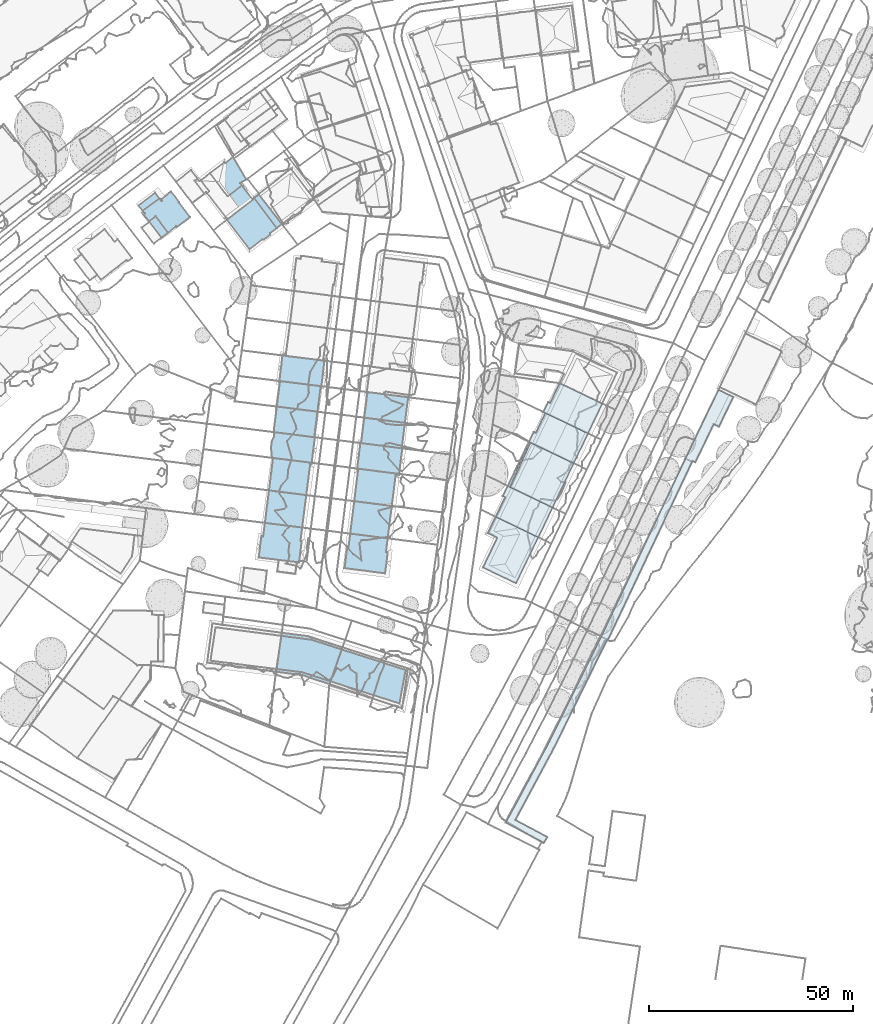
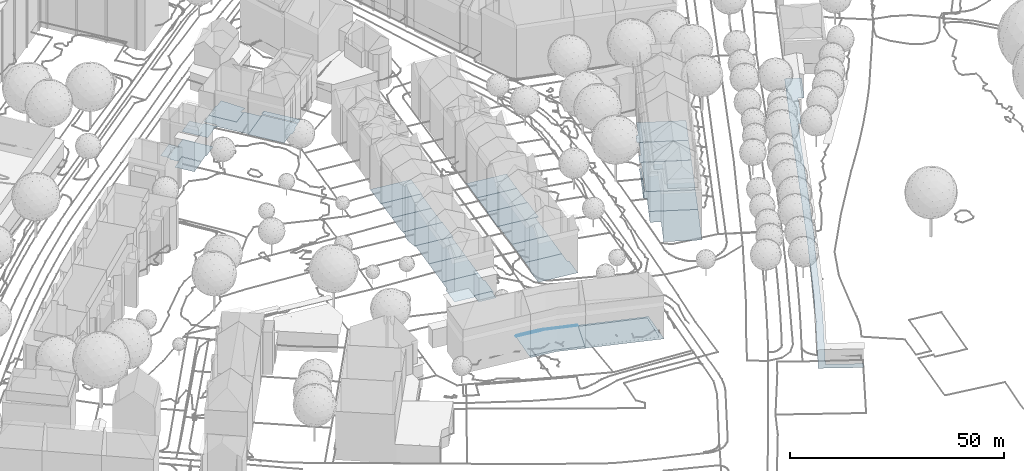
# Not in any storey, part 9 of 477: 26 footings.
"""IFC4 building model written with IfcOpenShell, lengths in metres."""

from ifc_helpers import new_model, si_unit, frame, origin_with_axes, place, context, subcontext, project, spatial, polygons, element, save


model = new_model("IFC4")

# Units and contexts
model_context = context("Model", 3, precision=1e-05, world=origin_with_axes())
body_context = subcontext(model_context, "Body", "Model", "MODEL_VIEW")
ifc_project = project(units=[si_unit("AREAUNIT", "SQUARE_METRE"), si_unit("LENGTHUNIT", "METRE")], contexts=[model_context])

# Sites, building
site_1_placement = place(None, origin_with_axes())
site_1 = spatial("IfcSite", under=ifc_project, at=site_1_placement, Name="Topoexport Site")
site_2_placement = place(site_1_placement, origin_with_axes())
site_2 = spatial("IfcSite", under=site_1, at=site_2_placement, Name="TPX_BUILDINGS")
building_1_placement = place(site_2_placement, frame((495.5237320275, 54.2186160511, 497.0566), z_axis=(0.0, 0.0, 1.0), x_axis=(1.0, 0.0, 0.0)))
building_1 = spatial("IfcBuilding", under=site_2, at=building_1_placement, Name="Building 9", CompositionType="ELEMENT")

# Footings
footing_1_placement = place(None, frame((495.5237320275, 54.2186160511, 497.0566), z_axis=(0.0, 0.0, 1.0), x_axis=(1.0, 0.0, 0.0)))
element("IfcFooting", 1, at=footing_1_placement, inside=building_1, Name="Floor 0", context=body_context, shape_type="Tessellation", body=[
    polygons([(0.5759999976, -0.2784000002, 0.508), (0.5370000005, -0.2588, 0.473), (2.2589999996, 3.4111000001, 0.44), (2.3440000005, 4.8662, 0.0001), (0.0, 0.0, 0.0), (5.2080000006, 10.8144000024, 0.0001), (5.5590000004, 10.6464000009, 0.309)], [[[1, 2, 3]], [[4, 2, 5]], [[3, 6, 7]], [[4, 6, 2]], [[6, 3, 2]]]),
])
footing_2_placement = place(None, frame((495.5237320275, 54.2186160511, 497.0566), z_axis=(0.0, 0.0, 1.0), x_axis=(1.0, 0.0, 0.0)))
element("IfcFooting", 2, at=footing_2_placement, inside=building_1, Name="Floor 1", context=body_context, shape_type="Tessellation", body=[
    polygons([(6.6919999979, 10.1025000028, 1.9099), (10.9839999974, 8.0459000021, 1.9099), (2.868999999, 4.6152000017, 1.9099), (15.4690000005, 5.8974000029, 1.9099), (10.2449999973, -4.9483000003, 1.9098), (5.748999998, -2.7763999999, 1.9099), (6.0159999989, 10.4266999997, 1.9099), (5.5590000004, 10.6464000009, 1.9099), (2.8189999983, 4.638600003, 1.9099), (16.1620000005, 5.5644000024, 1.9099), (2.2569999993, 3.3349000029, 1.9099), (1.5599999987, 1.8789000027, 1.9099), (0.5759999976, -0.2784000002, 1.9099), (10.9659999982, -5.2958999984, 1.9098)], [[[1, 2, 3]], [[2, 4, 5]], [[3, 2, 6]], [[7, 3, 8]], [[9, 8, 3]], [[1, 3, 7]], [[10, 5, 4]], [[6, 2, 5]], [[11, 3, 6]], [[6, 12, 11]], [[13, 12, 6]], [[10, 14, 5]]]),
])

# Building
building_2_placement = place(site_2_placement, frame((504.2517320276, 72.3416160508, 498.9665), z_axis=(0.0, 0.0, 1.0), x_axis=(1.0, 0.0, 0.0)))
building_2 = spatial("IfcBuilding", under=site_2, at=building_2_placement, Name="Building 14", CompositionType="ELEMENT")

# Footing
footing_3_placement = place(None, frame((504.2517320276, 72.3416160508, 498.9665), z_axis=(0.0, 0.0, 1.0), x_axis=(1.0, 0.0, 0.0)))
element("IfcFooting", 3, at=footing_3_placement, inside=building_2, Name="Floor 0", context=body_context, shape_type="Tessellation", body=[
    polygons([(10.9389999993, -5.2372999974, 0.0), (5.7769999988, -2.7655999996, 0.0), (12.0669999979, -2.878899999, 0.0), (2.2540000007, 3.447300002, 0.0), (13.3420000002, -0.2138999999, 0.0), (9.2909999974, 4.5293000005, 0.0), (14.4289999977, 2.0596000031, 0.0), (3.3110000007, 5.6563000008, 0.0), (5.0020000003, 6.5898000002, 0.0), (4.3259999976, 6.9150000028, 0.0), (1.4849999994, -0.7108999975, 0.0), (1.6769999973, 2.2412, 0.0), (0.8079999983, -0.3866999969, 0.0), (0.0, 0.0, 0.0), (1.1909999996, 2.4736000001, 0.0), (4.0260000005, 7.0596000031, 0.0), (3.9849999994, 7.0654000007, 0.0)], [[[1, 2, 3]], [[3, 4, 5]], [[3, 2, 4]], [[5, 6, 7]], [[4, 6, 5]], [[8, 9, 6]], [[8, 10, 9]], [[2, 11, 12]], [[4, 2, 12]], [[13, 14, 12]], [[15, 12, 14]], [[6, 4, 8]], [[16, 10, 17]], [[10, 8, 17]], [[12, 11, 13]]]),
])

# Building
building_3_placement = place(site_2_placement, frame((489.4687320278, 34.2352160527, 498.9664), z_axis=(0.0, 0.0, 1.0), x_axis=(1.0, 0.0, 0.0)))
building_3 = spatial("IfcBuilding", under=site_2, at=building_3_placement, Name="Building 15", CompositionType="ELEMENT")

# Footing
footing_4_placement = place(None, frame((489.4687320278, 34.2352160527, 498.9664), z_axis=(0.0, 0.0, 1.0), x_axis=(1.0, 0.0, 0.0)))
element("IfcFooting", 4, at=footing_4_placement, inside=building_3, Name="Floor 0", context=body_context, shape_type="Tessellation", body=[
    polygons([(8.311999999, 9.9100999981, 0.0), (12.7919999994, 7.7509000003, 0.0), (3.5139999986, 7.2840999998, 0.0), (3.3530000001, 12.3016999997, 0.0001), (13.5309999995, 7.3944999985, 0.0), (8.0909999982, -3.8643000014, 0.0), (0.0, 0.0, 0.0), (1.1679999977, 8.4237999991, 0.0001), (3.1030000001, 12.4228000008, 0.0001), (3.2719999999, 12.3407999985, 0.0001)], [[[1, 2, 3]], [[4, 1, 3]], [[5, 6, 2]], [[6, 7, 3]], [[8, 9, 10]], [[4, 8, 10]], [[8, 4, 3]], [[2, 6, 3]]]),
])

# Building
building_4_placement = place(site_2_placement, frame((500.7317320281, 65.0330160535, 498.9665), z_axis=(0.0, 0.0, 1.0), x_axis=(1.0, 0.0, 0.0)))
building_4 = spatial("IfcBuilding", under=site_2, at=building_4_placement, Name="Building 16", CompositionType="ELEMENT")

# Footing
footing_5_placement = place(None, frame((500.7317320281, 65.0330160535, 498.9665), z_axis=(0.0, 0.0, 1.0), x_axis=(1.0, 0.0, 0.0)))
element("IfcFooting", 5, at=footing_5_placement, inside=building_4, Name="Floor 0", context=body_context, shape_type="Tessellation", body=[
    polygons([(10.2609999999, -4.9180000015, 0.0), (13.7829999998, 2.3944999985, 0.0), (10.9539999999, -5.25, 0.0), (9.2969999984, 4.5429999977, 0.0), (5.7969999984, -2.7783000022, 0.0), (1.6799999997, 2.1992000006, 0.0), (14.4579999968, 2.0713, 0.0), (3.2749999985, 5.5321999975, 0.0), (4.5700000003, 6.8057000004, 0.0), (0.8079999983, -0.3877000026, 0.0), (0.0, 0.0, 0.0), (1.175999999, 2.441399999, 0.0), (4.0119999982, 7.0722999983, 0.0)], [[[1, 2, 3]], [[4, 5, 6]], [[5, 4, 1]], [[3, 2, 7]], [[1, 4, 2]], [[8, 9, 4]], [[10, 11, 6]], [[12, 6, 11]], [[6, 8, 4]], [[13, 9, 8]], [[10, 6, 5]]]),
])

# Building
building_5_placement = place(site_2_placement, frame((492.5717320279, 46.6580160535, 498.9665), z_axis=(0.0, 0.0, 1.0), x_axis=(1.0, 0.0, 0.0)))
building_5 = spatial("IfcBuilding", under=site_2, at=building_5_placement, Name="Building 17", CompositionType="ELEMENT")

# Footing
footing_6_placement = place(None, frame((492.5717320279, 46.6580160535, 498.9665), z_axis=(0.0, 0.0, 1.0), x_axis=(1.0, 0.0, 0.0)))
element("IfcFooting", 6, at=footing_6_placement, inside=building_5, Name="Floor 0", context=body_context, shape_type="Tessellation", body=[
    polygons([(8.7190000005, 4.7753999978, 0.0), (5.2339999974, -2.5243999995, -0.0001), (2.3319999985, 4.811499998, 0.0), (9.6889999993, -4.6719000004, -0.0001), (13.1979999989, 2.6122999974, -0.0001), (13.9179999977, 2.2646999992, -0.0001), (10.4279999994, -5.0283000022, -0.0001), (3.9690000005, 7.0692999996, 0.0), (0.2469999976, -0.1191000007, 0.0), (0.9690000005, 1.998999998, 0.0), (0.1689999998, -0.0820000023, 0.0), (0.0, 0.0, 0.0), (2.9519999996, 7.5605999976, 0.0), (1.7639999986, 5.0946999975, 0.0)], [[[1, 2, 3]], [[4, 5, 6]], [[6, 7, 4]], [[5, 4, 2]], [[1, 5, 2]], [[3, 8, 1]], [[9, 10, 2]], [[3, 2, 10]], [[11, 12, 10]], [[8, 3, 13]], [[13, 3, 14]], [[10, 9, 11]]]),
])

# Building
building_6_placement = place(site_2_placement, frame((211.8297320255, 101.9383160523, 526.7541), z_axis=(0.0, 0.0, 1.0), x_axis=(1.0, 0.0, 0.0)))
building_6 = spatial("IfcBuilding", under=site_2, at=building_6_placement, Name="Building 18", CompositionType="ELEMENT")

# Footing
footing_7_placement = place(None, frame((211.8297320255, 101.9383160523, 526.7541), z_axis=(0.0, 0.0, 1.0), x_axis=(1.0, 0.0, 0.0)))
element("IfcFooting", 7, at=footing_7_placement, inside=building_6, Name="Floor 3", context=body_context, shape_type="Tessellation", body=[
    polygons([(335.3610000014, -24.1719000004, -27.9426), (338.9510000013, -25.9023999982, -27.9427), (334.2990000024, -32.5879000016, -27.9427), (335.4580000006, -33.1464999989, -27.9427), (334.1680000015, -32.5234999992, -27.9427), (328.9720000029, -41.5625, -27.9427), (333.6909999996, -33.5137000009, -27.9427), (332.5610000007, -35.8555000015, -27.9427), (327.2400000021, -41.0078000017, -27.9427), (329.6530000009, -41.8887000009, -27.9427), (308.313000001, -85.2412, -27.9427), (308.1209999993, -85.2069999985, -27.9427), (306.6070000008, -84.692400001, -27.9427), (324.995000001, -45.7617000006, -27.9427), (328.8660000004, -41.7870999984, -27.9427), (294.876000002, -112.1572000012, -27.9427), (294.9710000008, -108.2001999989, -27.9427), (294.4140000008, -113.0175999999, -27.9427), (292.4979999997, -135.1669999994, -27.9427), (285.512000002, -129.5995999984, -27.9427), (293.3480000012, -133.7763999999, -27.9427), (283.2259999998, -130.1728999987, -27.9427), (306.6060000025, -84.6942999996, -27.9427), (289.6669999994, -118.191399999, -27.9427), (286.1980000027, -128.3213, -27.9427), (289.1790000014, -119.0839999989, -27.9427), (293.3880000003, -111.3975000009, -27.9427), (285.9140000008, -128.8506000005, -27.9427), (287.0720000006, -123.0791000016, -27.9427), (286.7400000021, -123.691399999, -27.9427)], [[[1, 2, 3]], [[4, 3, 2]], [[3, 5, 1]], [[6, 5, 7]], [[6, 7, 8]], [[6, 9, 1]], [[5, 6, 1]], [[6, 8, 10]], [[11, 12, 13]], [[11, 13, 14]], [[15, 14, 6]], [[9, 6, 14]], [[11, 14, 15]], [[16, 17, 12]], [[17, 16, 18]], [[19, 20, 21]], [[22, 20, 19]], [[12, 23, 13]], [[12, 17, 23]], [[24, 25, 26]], [[27, 25, 24]], [[27, 17, 18]], [[28, 29, 25]], [[20, 29, 28]], [[20, 30, 29]], [[22, 30, 20]], [[29, 26, 25]], [[27, 18, 25]]]),
])

# Building
building_7_placement = place(site_2_placement, frame((405.0787320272, 122.9930160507, 499.2066), z_axis=(0.0, 0.0, 1.0), x_axis=(1.0, 0.0, 0.0)))
building_7 = spatial("IfcBuilding", under=site_2, at=building_7_placement, Name="Building 33", CompositionType="ELEMENT")

# Footing
footing_8_placement = place(None, frame((405.0787320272, 122.9930160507, 499.2066), z_axis=(0.0, 0.0, 1.0), x_axis=(1.0, 0.0, 0.0)))
element("IfcFooting", 8, at=footing_8_placement, inside=building_7, Name="Floor 0", context=body_context, shape_type="Tessellation", body=[
    polygons([(0.9959999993, -1.2978999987, -0.126), (5.0779999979, 1.7256000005, -0.126), (1.4620000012, -1.9042999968, -0.126), (5.563000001, 1.0937000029, -0.126), (1.5280000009, -1.9912, -0.126), (4.1849999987, -2.6318999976, -0.126), (2.5229999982, -3.8632999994, -0.126), (1.2509999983, -2.2060999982, -0.126), (7.1750000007, -6.6679999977, -0.126), (9.1609999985, -5.1269999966, -0.126), (9.3090000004, -5.3173999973, -0.126), (12.5799999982, -2.8007999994, -0.126), (9.8220000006, 0.754900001, -0.126), (5.6979999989, 1.1972000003, -0.126), (5.4679999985, 1.4980000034, -0.126), (7.9809999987, 3.4267000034, -0.126), (9.9129999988, 0.8252000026, -0.126), (5.0779999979, 1.7256000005, 0.0), (0.0, 0.0, 0.0), (4.0289999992, 3.0927000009, 0.0), (0.9959999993, -1.2978999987, 0.0), (4.1849999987, -2.6318999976, -0.206), (2.625, -3.9960999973, -0.206), (2.5229999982, -3.8632999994, -0.206), (7.1750000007, -6.6679999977, -0.206), (3.7120000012, -9.3544999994, -0.206), (0.7219999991, -5.4570999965, -0.206)], [[[1, 2, 3]], [[4, 5, 3]], [[3, 2, 4]], [[4, 6, 5]], [[7, 8, 5]], [[5, 6, 7]], [[9, 6, 10]], [[11, 10, 12]], [[6, 13, 10]], [[6, 4, 14]], [[15, 16, 14]], [[16, 13, 14]], [[16, 17, 13]], [[12, 10, 13]], [[13, 6, 14]], [[18, 19, 20]], [[19, 18, 21]], [[22, 23, 24]], [[22, 25, 23]], [[26, 27, 23]], [[23, 25, 26]]]),
])

# Building
building_8_placement = place(site_2_placement, frame((434.497732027, 36.682416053, 499.5704), z_axis=(0.0, 0.0, 1.0), x_axis=(1.0, 0.0, 0.0)))
building_8 = spatial("IfcBuilding", under=site_2, at=building_8_placement, Name="Building 42", CompositionType="ELEMENT")

# Footing
footing_9_placement = place(None, frame((434.497732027, 36.682416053, 499.5704), z_axis=(0.0, 0.0, 1.0), x_axis=(1.0, 0.0, 0.0)))
element("IfcFooting", 9, at=footing_9_placement, inside=building_8, Name="Floor 0", context=body_context, shape_type="Tessellation", body=[
    polygons([(5.4829999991, 7.9668000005, 0.0001), (1.1019999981, 5.1532999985, 0.0001), (1.5179999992, 8.4609999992, 0.0001), (0.3359999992, 2.6660000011, 0.0), (4.7949999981, -0.5956999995, 0.0), (0.0, 0.0, 0.0), (0.6559999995, 5.2089999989, 0.0001), (10.2329999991, 4.0313000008, 0.0), (10.2470000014, 4.1396999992, 0.0), (10.5500000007, 3.9912, 0.0), (10.2080000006, 1.2989000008, 0.0), (9.8889999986, -1.2109000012, 0.0), (10.6510000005, 7.3222999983, 0.0), (9.3139999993, -1.1552000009, 0.454), (4.5639999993, -3.4218000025, 0.454), (4.9129999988, -0.6093000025, 0.454), (9.5789999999, -1.1737999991, 0.454), (8.9620000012, -3.9814000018, 0.454), (9.5769999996, -1.1884000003, 0.454)], [[[1, 2, 3]], [[4, 5, 6]], [[2, 5, 4]], [[4, 7, 2]], [[1, 8, 2]], [[1, 9, 8]], [[5, 2, 8]], [[10, 11, 8]], [[12, 5, 11]], [[8, 11, 5]], [[1, 13, 9]], [[14, 15, 16]], [[16, 17, 14]], [[14, 18, 15]], [[14, 17, 19]]]),
])

# Building
building_9_placement = place(site_2_placement, frame((437.0167320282, 53.1053160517, 499.5705), z_axis=(0.0, 0.0, 1.0), x_axis=(1.0, 0.0, 0.0)))
building_9 = spatial("IfcBuilding", under=site_2, at=building_9_placement, Name="Building 43", CompositionType="ELEMENT")

# Footing
footing_10_placement = place(None, frame((437.0167320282, 53.1053160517, 499.5705), z_axis=(0.0, 0.0, 1.0), x_axis=(1.0, 0.0, 0.0)))
element("IfcFooting", 10, at=footing_10_placement, inside=building_9, Name="Floor 0", context=body_context, shape_type="Tessellation", body=[
    polygons([(0.0, 0.0, 0.0), (0.2280000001, 1.8125, 0.0), (1.7649999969, -0.2216999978, 0.0), (0.5899999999, 4.6933000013, 0.0), (4.0639999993, -0.5097999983, 0.0), (5.1639999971, 7.4354999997, 0.0), (9.6719999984, 3.0175999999, 0.0), (9.1429999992, -1.1475000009, 0.0), (9.1739999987, 6.9345000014, 0.0), (10.1229999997, 6.5644000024, 0.0), (0.743999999, 7.9882999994, 0.0), (1.8079999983, 7.8553999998, 0.0), (0.9769999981, 7.7666000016, 0.0), (0.7619999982, 7.7928999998, 0.0), (4.6549999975, 7.4990000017, 0.0), (10.4389999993, 6.5243999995, 0.0), (10.4709999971, 6.7723999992, 0.0)], [[[1, 2, 3]], [[2, 4, 5]], [[5, 3, 2]], [[6, 7, 4]], [[7, 8, 5]], [[7, 5, 4]], [[9, 10, 7]], [[11, 12, 13]], [[13, 14, 11]], [[15, 4, 12]], [[16, 10, 17]], [[15, 6, 4]], [[9, 7, 6]], [[17, 10, 9]], [[4, 13, 12]]]),
])

# Building
building_10_placement = place(site_2_placement, frame((439.5667320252, 79.9246160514, 499.5705), z_axis=(0.0, 0.0, 1.0), x_axis=(1.0, 0.0, 0.0)))
building_10 = spatial("IfcBuilding", under=site_2, at=building_10_placement, Name="Building 44", CompositionType="ELEMENT")

# Footing
footing_11_placement = place(None, frame((439.5667320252, 79.9246160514, 499.5705), z_axis=(0.0, 0.0, 1.0), x_axis=(1.0, 0.0, 0.0)))
element("IfcFooting", 11, at=footing_11_placement, inside=building_10, Name="Floor 0", context=body_context, shape_type="Tessellation", body=[
    polygons([(10.3030000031, -1.2811999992, 0.0), (10.2280000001, -1.2714999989, 0.0), (10.6560000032, 1.7294999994, 0.0), (10.7440000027, 2.4794999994, 0.0), (0.375, 3.0947000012, 0.0), (9.5560000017, -1.1875, 0.0), (0.4790000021, 3.9570000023, 0.0), (6.074000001, 5.6016000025, 0.0), (11.0370000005, 4.9805000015, 0.0), (9.949000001, 5.1162, 0.0), (5.2080000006, -0.6464999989, 0.0), (0.5350000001, -0.0654000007, 0.0), (0.0, 0.0, 0.0), (0.7589999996, 6.2675999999, 0.0), (2.3210000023, 6.0713, 0.0)], [[[1, 2, 3]], [[4, 3, 5]], [[3, 2, 6]], [[4, 7, 8]], [[9, 4, 10]], [[10, 4, 8]], [[6, 11, 3]], [[12, 5, 11]], [[13, 5, 12]], [[5, 7, 4]], [[14, 15, 7]], [[15, 8, 7]], [[5, 3, 11]]]),
])

# Building
building_11_placement = place(site_2_placement, frame((438.9377320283, 73.6600160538, 499.5705), z_axis=(0.0, 0.0, 1.0), x_axis=(1.0, 0.0, 0.0)))
building_11 = spatial("IfcBuilding", under=site_2, at=building_11_placement, Name="Building 47", CompositionType="ELEMENT")

# Footing
footing_12_placement = place(None, frame((438.9377320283, 73.6600160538, 499.5705), z_axis=(0.0, 0.0, 1.0), x_axis=(1.0, 0.0, 0.0)))
element("IfcFooting", 12, at=footing_12_placement, inside=building_11, Name="Floor 0", context=body_context, shape_type="Tessellation", body=[
    polygons([(10.932, 4.9833999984, 0.0), (10.9189999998, 4.8680999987, 0.0), (10.856999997, 4.9930999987, 0.0), (10.9019999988, 4.7245999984, 0.0), (10.7329999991, 4.7460999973, 0.0), (10.1849999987, 5.0770999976, 0.0), (0.7529999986, 5.9969999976, 0.0), (1.1549999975, 6.2001999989, 0.0), (5.8369999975, 5.6180999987, 0.0), (0.6289999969, 6.2645999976, 0.0), (0.6030000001, 6.0155999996, 0.0), (10.5179999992, 3.0585999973, 0.0), (0.4659999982, 3.7118999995, 0.0), (10.2869999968, 1.2509000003, 0.0), (9.9670000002, -1.255900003, 0.0), (9.3189999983, -1.1739000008, 0.0), (4.9719999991, -0.6270000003, 0.0), (0.186999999, 1.4891999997, 0.0), (0.2919999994, -0.0381000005, 0.0), (0.0, 0.0, 0.0)], [[[1, 2, 3]], [[4, 5, 2]], [[2, 6, 3]], [[2, 5, 6]], [[7, 8, 9]], [[6, 5, 9]], [[10, 8, 7]], [[10, 7, 11]], [[5, 12, 9]], [[13, 12, 14]], [[14, 15, 16]], [[17, 18, 14]], [[14, 16, 17]], [[18, 17, 19]], [[18, 13, 14]], [[19, 20, 18]], [[12, 13, 7]], [[9, 12, 7]]]),
])

# Building
building_12_placement = place(site_2_placement, frame((438.2527320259, 67.3914160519, 499.5705), z_axis=(0.0, 0.0, 1.0), x_axis=(1.0, 0.0, 0.0)))
building_12 = spatial("IfcBuilding", under=site_2, at=building_12_placement, Name="Building 48", CompositionType="ELEMENT")

# Footing
footing_13_placement = place(None, frame((438.2527320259, 67.3914160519, 499.5705), z_axis=(0.0, 0.0, 1.0), x_axis=(1.0, 0.0, 0.0)))
element("IfcFooting", 13, at=footing_13_placement, inside=building_12, Name="Floor 0", context=body_context, shape_type="Tessellation", body=[
    polygons([(10.6520000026, 5.0126999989, 0.0), (10.3590000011, 2.7109000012, 0.0), (10.0040000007, 5.0947000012, 0.0), (10.1220000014, 0.8544999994, 0.0), (5.6570000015, 5.6416000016, 0.0), (4.7919999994, -0.6024999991, 0.0), (0.4680000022, 4.5390999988, 0.0), (0.9770000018, 6.2305000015, 0.0), (0.6850000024, 6.2686000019, 0.0), (0.0410000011, 1.1455000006, 0.0), (10.0040000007, -1.2588, 0.0), (9.693, -1.2197000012, 0.0), (9.8859999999, -0.9921999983, 0.0), (10.0350000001, -1.0106999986, 0.0), (9.1400000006, -1.1493999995, 0.0), (0.0, 0.0, 0.0)], [[[1, 2, 3]], [[2, 4, 5]], [[5, 3, 2]], [[5, 6, 7]], [[8, 7, 9]], [[7, 8, 5]], [[6, 10, 7]], [[5, 4, 6]], [[11, 12, 13]], [[13, 14, 11]], [[13, 12, 15]], [[15, 6, 4]], [[16, 10, 6]], [[13, 15, 4]]]),
])

# Building
building_13_placement = place(site_2_placement, frame((437.5277320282, 63.6443160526, 499.5705), z_axis=(0.0, 0.0, 1.0), x_axis=(1.0, 0.0, 0.0)))
building_13 = spatial("IfcBuilding", under=site_2, at=building_13_placement, Name="Building 50", CompositionType="ELEMENT")

# Footing
footing_14_placement = place(None, frame((437.5277320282, 63.6443160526, 499.5705), z_axis=(0.0, 0.0, 1.0), x_axis=(1.0, 0.0, 0.0)))
element("IfcFooting", 14, at=footing_14_placement, inside=building_13, Name="Floor 0", context=body_context, shape_type="Tessellation", body=[
    polygons([(0.1939999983, 1.5361999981, 0.0), (0.6849999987, 2.6347999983, 0.0), (5.5169999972, 3.1446000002, 0.0), (0.1030000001, 0.8194000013, 0.0), (0.0, 0.0, 0.0), (4.6529999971, -3.1035000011, 0.0), (4.1439999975, -3.0399999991, 0.0), (0.2329999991, -2.5507000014, 0.0), (0.7249999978, 3.7470999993, 0.0), (9.8649999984, 2.5976999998, 0.0), (10.5479999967, 1.0157000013, 0.0), (10.7289999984, 2.4882999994, 0.0), (10.4179999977, 2.5273999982, 0.0), (10.1589999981, -2.1484000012, 0.0), (9.9599999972, -3.7666000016, 0.0)], [[[1, 2, 3]], [[3, 4, 1]], [[5, 6, 7]], [[8, 5, 7]], [[5, 4, 6]], [[9, 3, 2]], [[10, 11, 3]], [[12, 11, 13]], [[11, 10, 13]], [[6, 14, 15]], [[14, 6, 11]], [[3, 11, 6]], [[6, 4, 3]]]),
])

# Building
building_14_placement = place(site_2_placement, frame((436.0157320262, 45.1434160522, 499.5705), z_axis=(0.0, 0.0, 1.0), x_axis=(1.0, 0.0, 0.0)))
building_14 = spatial("IfcBuilding", under=site_2, at=building_14_placement, Name="Building 51", CompositionType="ELEMENT")

# Footing
footing_15_placement = place(None, frame((436.0157320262, 45.1434160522, 499.5705), z_axis=(0.0, 0.0, 1.0), x_axis=(1.0, 0.0, 0.0)))
element("IfcFooting", 15, at=footing_15_placement, inside=building_14, Name="Floor 0", context=body_context, shape_type="Tessellation", body=[
    polygons([(9.8909999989, 4.8260999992, 0.0), (5.0650000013, 7.4510999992, 0.0), (10.1440000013, 6.8143999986, 0.0), (9.5500000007, 2.1444999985, -0.0001), (0.3949999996, 3.1444999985, 0.0), (2.7659999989, 7.7402000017, 0.0), (0.7679999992, 6.1053999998, 0.0), (1.001000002, 7.9618999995, 0.0), (9.1330000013, -1.1387000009, -0.0001), (3.9649999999, -0.4941999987, 0.0), (0.0, 0.0, 0.0)], [[[1, 2, 3]], [[2, 4, 5]], [[6, 7, 8]], [[6, 2, 7]], [[5, 7, 2]], [[1, 4, 2]], [[9, 10, 4]], [[5, 10, 11]], [[5, 4, 10]]]),
])

# Building
building_15_placement = place(site_2_placement, frame((460.3767320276, 70.9432160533, 499.4055), z_axis=(0.0, 0.0, 1.0), x_axis=(1.0, 0.0, 0.0)))
building_15 = spatial("IfcBuilding", under=site_2, at=building_15_placement, Name="Building 52", CompositionType="ELEMENT")

# Footing
footing_16_placement = place(None, frame((460.3767320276, 70.9432160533, 499.4055), z_axis=(0.0, 0.0, 1.0), x_axis=(1.0, 0.0, 0.0)))
element("IfcFooting", 16, at=footing_16_placement, inside=building_15, Name="Floor 0", context=body_context, shape_type="Tessellation", body=[
    polygons([(5.6710000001, 5.6532999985, 0.0), (10.112999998, 5.0868999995, 0.0), (10.7339999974, 4.7557999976, 0.0), (10.9140000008, 4.9842999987, 0.0), (1.2829999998, 6.2137999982, 0.0), (0.7630000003, 6.0273000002, 0.0), (0.7709999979, 6.2782999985, 0.0), (0.6499999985, 6.0419999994, 0.0), (0.6359999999, 6.2967999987, 0.0), (0.6050000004, 6.0478000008, 0.0), (10.9010000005, 4.8817999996, 0.0), (10.8829999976, 4.7362999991, 0.0), (0.2740000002, 2.1669999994, 0.0), (9.9679999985, -1.2831999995, 0.0), (9.3729999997, -1.2061000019, 0.0), (10.2229999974, 0.7294999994, 0.0), (4.932, -0.6358000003, 0.0), (0.0, 0.0, 0.0)], [[[1, 2, 3]], [[4, 3, 2]], [[5, 1, 6]], [[5, 6, 7]], [[7, 8, 9]], [[10, 9, 8]], [[7, 6, 8]], [[3, 4, 11]], [[3, 11, 12]], [[13, 1, 3]], [[14, 15, 16]], [[16, 17, 3]], [[17, 16, 15]], [[13, 6, 1]], [[18, 13, 17]], [[17, 13, 3]]]),
])

# Building
building_16_placement = place(site_2_placement, frame((456.9307320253, 42.5213160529, 499.4054), z_axis=(0.0, 0.0, 1.0), x_axis=(1.0, 0.0, 0.0)))
building_16 = spatial("IfcBuilding", under=site_2, at=building_16_placement, Name="Building 53", CompositionType="ELEMENT")

# Footing
footing_17_placement = place(None, frame((456.9307320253, 42.5213160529, 499.4054), z_axis=(0.0, 0.0, 1.0), x_axis=(1.0, 0.0, 0.0)))
element("IfcFooting", 17, at=footing_17_placement, inside=building_16, Name="Floor 0", context=body_context, shape_type="Tessellation", body=[
    polygons([(0.3390000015, 2.7157999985, 0.0), (8.7890000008, -1.1162, 0.0), (0.0, 0.0, 0.0), (10.1860000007, 6.7793000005, 0.0), (9.1860000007, -1.1669999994, 0.0), (0.9930000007, 7.9501999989, 0.0001), (5.9710000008, 7.316399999, 0.0), (8.0789999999, 7.0487999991, 0.0)], [[[1, 2, 3]], [[2, 4, 5]], [[6, 7, 1]], [[4, 2, 8]], [[7, 8, 2]], [[1, 7, 2]]]),
])

# Building
building_17_placement = place(site_2_placement, frame((457.923732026, 50.4715160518, 499.4055), z_axis=(0.0, 0.0, 1.0), x_axis=(1.0, 0.0, 0.0)))
building_17 = spatial("IfcBuilding", under=site_2, at=building_17_placement, Name="Building 56", CompositionType="ELEMENT")

# Footing
footing_18_placement = place(None, frame((457.923732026, 50.4715160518, 499.4055), z_axis=(0.0, 0.0, 1.0), x_axis=(1.0, 0.0, 0.0)))
element("IfcFooting", 18, at=footing_18_placement, inside=building_17, Name="Floor 0", context=body_context, shape_type="Tessellation", body=[
    polygons([(7.0859999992, -0.9013999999, -0.0001), (9.3390000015, -0.0108000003, -0.0001), (9.2679999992, -0.5762000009, -0.0001), (9.193, -1.1699000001, -0.0001), (4.9780000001, -0.6338, -0.0001), (10.0240000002, 5.4248000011, 0.0), (5.9140000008, 7.3291000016, 0.0), (0.0, 0.0, 0.0), (0.9609999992, 7.7012000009, 0.0), (10.0940000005, 5.9834000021, 0.0), (9.3990000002, 6.8828000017, 0.0), (6.3570000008, 7.2723999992, 0.0), (0.6830000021, 7.7362999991, 0.0), (0.7149999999, 7.9941000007, 0.0), (1.9719999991, 7.8330000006, 0.0), (10.1630000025, 6.5322000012, 0.0), (10.9869999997, 6.6797000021, 0.0), (10.9560000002, 6.4316000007, 0.0), (9.5350000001, 6.8662, 0.0)], [[[1, 2, 3]], [[1, 3, 4]], [[5, 2, 1]], [[6, 5, 7]], [[5, 8, 9]], [[2, 5, 6]], [[10, 6, 11]], [[5, 9, 7]], [[7, 12, 6]], [[9, 13, 14]], [[11, 6, 12]], [[9, 15, 7]], [[15, 9, 14]], [[16, 17, 18]], [[19, 17, 16]], [[10, 19, 16]], [[19, 10, 11]]]),
])

# Building
building_18_placement = place(site_2_placement, frame((458.6387320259, 58.4656160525, 499.4055), z_axis=(0.0, 0.0, 1.0), x_axis=(1.0, 0.0, 0.0)))
building_18 = spatial("IfcBuilding", under=site_2, at=building_18_placement, Name="Building 58", CompositionType="ELEMENT")

# Footing
footing_19_placement = place(None, frame((458.6387320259, 58.4656160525, 499.4055), z_axis=(0.0, 0.0, 1.0), x_axis=(1.0, 0.0, 0.0)))
element("IfcFooting", 19, at=footing_19_placement, inside=building_18, Name="Floor 0", context=body_context, shape_type="Tessellation", body=[
    polygons([(0.7910000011, 6.253899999, 0.0), (1.5600000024, 6.1572999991, 0.0), (0.568, 4.4882999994, 0.0), (5.9360000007, 5.5986999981, 0.0), (0.4039999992, 3.1884999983, 0.0), (1.2569999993, -0.1611000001, 0.0), (0.0, 0.0, 0.0), (0.1970000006, 1.5606000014, 0.0), (5.199000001, -0.6649999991, 0.0), (10.6610000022, 1.7969000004, 0.0), (10.8269999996, 3.1270000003, 0.0), (10.4959999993, 0.4765999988, 0.0), (5.6420000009, -0.7217000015, 0.0), (8.6840000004, -1.1112999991, 0.0), (8.8200000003, -1.1279000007, 0.0), (10.2719999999, -1.3134999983, 0.0), (11.0549999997, 4.9483000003, 0.0)], [[[1, 2, 3]], [[3, 2, 4]], [[4, 5, 3]], [[6, 7, 8]], [[6, 8, 9]], [[5, 9, 8]], [[4, 10, 5]], [[10, 9, 5]], [[4, 11, 10]], [[10, 12, 13]], [[10, 13, 9]], [[13, 12, 14]], [[15, 12, 16]], [[14, 12, 15]], [[4, 17, 11]]]),
])

# Building
building_19_placement = place(site_2_placement, frame((459.429732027, 64.7195160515, 499.4055), z_axis=(0.0, 0.0, 1.0), x_axis=(1.0, 0.0, 0.0)))
building_19 = spatial("IfcBuilding", under=site_2, at=building_19_placement, Name="Building 59", CompositionType="ELEMENT")

# Footing
footing_20_placement = place(None, frame((459.429732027, 64.7195160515, 499.4055), z_axis=(0.0, 0.0, 1.0), x_axis=(1.0, 0.0, 0.0)))
element("IfcFooting", 20, at=footing_20_placement, inside=building_19, Name="Floor 0", context=body_context, shape_type="Tessellation", body=[
    polygons([(5.1449999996, -0.6552000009, 0.0), (0.7659999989, -0.0965999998, 0.0), (0.6579999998, 3.9317000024, 0.0), (0.0, 0.0, 0.0), (0.1900000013, 0.2285000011, 0.0), (10.2659999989, -1.3055999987, 0.0), (10.1579999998, -1.0399999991, 0.0), (10.307, -1.0585999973, 0.0), (0.0309999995, 0.2481000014, 0.0), (5.8790000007, 5.5879000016, 0.0), (0.9470000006, 6.2237000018, 0.0), (10.7259999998, 3.4453000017, 0.0), (10.3200000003, 5.0175999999, 0.0), (10.9149999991, 4.9405000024, 0.0)], [[[1, 2, 3]], [[2, 4, 5]], [[6, 1, 7]], [[7, 8, 6]], [[9, 5, 4]], [[7, 1, 3]], [[10, 3, 11]], [[7, 10, 12]], [[13, 14, 12]], [[12, 10, 13]], [[10, 7, 3]], [[2, 5, 3]]]),
])

# Building
building_20_placement = place(site_2_placement, frame((455.554732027, 34.0604160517, 499.4054), z_axis=(0.0, 0.0, 1.0), x_axis=(1.0, 0.0, 0.0)))
building_20 = spatial("IfcBuilding", under=site_2, at=building_20_placement, Name="Building 60", CompositionType="ELEMENT")

# Footing
footing_21_placement = place(None, frame((455.554732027, 34.0604160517, 499.4054), z_axis=(0.0, 0.0, 1.0), x_axis=(1.0, 0.0, 0.0)))
element("IfcFooting", 21, at=footing_21_placement, inside=building_20, Name="Floor 0", context=body_context, shape_type="Tessellation", body=[
    polygons([(4.9609999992, -0.6425999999, 0.0), (10.2609999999, 1.3885999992, 0.0), (10.245000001, 1.258700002, 0.0), (9.9230000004, -1.2841999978, 0.0), (10.1429999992, 3.9598999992, 0.0), (10.3079999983, 1.7509000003, 0.0), (10.5799999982, 3.9042000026, 0.0), (10.1829999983, 7.3427000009, 0.0), (10.561999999, 7.2928999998, 0.0), (10.3429999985, 5.5527000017, 0.0), (6.4129999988, 7.821200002, 0.0), (0.3530000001, 2.7949000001, 0.0), (0.2729999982, 2.1611000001, 0.0), (0.0, 0.0, 0.0), (0.9670000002, 5.1806000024, 0.0), (1.3759999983, 8.4598999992, 0.0), (0.6589999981, 5.2197000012, 0.0)], [[[1, 2, 3]], [[3, 4, 1]], [[1, 5, 6]], [[6, 2, 1]], [[5, 7, 6]], [[8, 9, 10]], [[8, 10, 11]], [[10, 5, 11]], [[12, 1, 13]], [[13, 1, 14]], [[15, 1, 12]], [[11, 1, 15]], [[15, 16, 11]], [[12, 17, 15]], [[11, 5, 1]]]),
])

# Building
building_21_placement = place(site_2_placement, frame((440.0417320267, 17.4568160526, 499.2944), z_axis=(0.0, 0.0, 1.0), x_axis=(1.0, 0.0, 0.0)))
building_21 = spatial("IfcBuilding", under=site_2, at=building_21_placement, Name="Building 67", CompositionType="ELEMENT")

# Footings
footing_22_placement = place(None, frame((440.0417320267, 17.4568160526, 499.2944), z_axis=(0.0, 0.0, 1.0), x_axis=(1.0, 0.0, 0.0)))
element("IfcFooting", 22, at=footing_22_placement, inside=building_21, Name="Floor 0", context=body_context, shape_type="Tessellation", body=[
    polygons([(0.0, 0.0, 0.0), (0.1090000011, 0.7529999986, 0.0), (7.3229999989, -0.9530999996, 0.0), (6.4149999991, -0.0672999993, 0.0), (14.9789999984, -2.8271000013, 0.0), (14.7950000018, -3.3495999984, 0.0), (7.4470000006, -0.3993999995, 0.0)], [[[1, 2, 3]], [[4, 3, 2]], [[5, 6, 7]], [[4, 7, 3]], [[7, 6, 3]]]),
])
footing_23_placement = place(None, frame((440.0417320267, 17.4568160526, 499.2944), z_axis=(0.0, 0.0, 1.0), x_axis=(1.0, 0.0, 0.0)))
element("IfcFooting", 23, at=footing_23_placement, inside=building_21, Name="Floor 1", context=body_context, shape_type="Tessellation", body=[
    polygons([(-0.5419999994, -3.8104999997, -0.111), (-0.2149999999, -1.4891999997, -0.1109), (6.4149999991, -0.0672999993, -0.111), (-1.1499999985, -8.128899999, -0.111), (4.9560000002, -8.8964000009, -0.111), (0.1160000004, 0.7520000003, -0.1109), (14.9800000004, -2.8271000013, -0.111), (13.4539999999, -7.1367000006, -0.111), (12.0300000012, -11.1629999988, -0.111), (4.7989999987, -9.6064000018, -0.14), (-1.2459999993, -8.8037, -0.14), (-1.1499999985, -8.128899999, -0.14), (4.9560000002, -8.8964000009, -0.14), (5.2930000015, -9.6708999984, -0.14), (12.0300000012, -11.1629999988, -0.14), (11.7839999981, -11.8583999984, -0.14)], [[[1, 2, 3]], [[4, 1, 5]], [[2, 6, 3]], [[3, 7, 8]], [[5, 1, 3]], [[9, 5, 8]], [[8, 5, 3]], [[10, 11, 12]], [[12, 13, 14]], [[15, 16, 14]], [[14, 13, 15]], [[10, 12, 14]]]),
])

# Building
building_22_placement = place(site_2_placement, frame((451.8257320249, 5.5984160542, 499.1684), z_axis=(0.0, 0.0, 1.0), x_axis=(1.0, 0.0, 0.0)))
building_22 = spatial("IfcBuilding", under=site_2, at=building_22_placement, Name="Building 68", CompositionType="ELEMENT")

# Footing
footing_24_placement = place(None, frame((451.8257320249, 5.5984160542, 499.1684), z_axis=(0.0, 0.0, 1.0), x_axis=(1.0, 0.0, 0.0)))
element("IfcFooting", 24, at=footing_24_placement, inside=building_22, Name="Floor 0", context=body_context, shape_type="Tessellation", body=[
    polygons([(17.8280000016, -5.9004000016, 0.0), (0.0, 0.0, 0.0), (17.1790000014, -4.7314000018, 0.0), (18.6110000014, -0.5595000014, 0.0), (18.688000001, 3.4833999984, 0.0), (19.2580000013, 3.8544999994, 0.0), (3.2250000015, 9.0214999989, 0.0), (3.0110000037, 8.5088, 0.0), (3.1960000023, 9.0312999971, 0.0), (0.2460000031, 0.6953999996, 0.0), (1.6700000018, 4.7216999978, 0.015), (3.0110000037, 8.5088, 0.015), (18.688000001, 3.4833999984, 0.015), (17.1790000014, -4.7314000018, 0.015), (0.2460000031, 0.6953999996, 0.015)], [[[1, 2, 3]], [[3, 4, 1]], [[5, 6, 4]], [[7, 6, 5]], [[5, 8, 7]], [[9, 7, 8]], [[5, 4, 3]], [[3, 2, 10]], [[11, 12, 13]], [[13, 14, 11]], [[14, 15, 11]]]),
])

# Building
building_23_placement = place(site_2_placement, frame((426.7187320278, 119.498816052, 512.4143), z_axis=(0.0, 0.0, 1.0), x_axis=(1.0, 0.0, 0.0)))
building_23 = spatial("IfcBuilding", under=site_2, at=building_23_placement, Name="Building 69", CompositionType="ELEMENT")

# Footing
footing_25_placement = place(None, frame((426.7187320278, 119.498816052, 512.4143), z_axis=(0.0, 0.0, 1.0), x_axis=(1.0, 0.0, 0.0)))
element("IfcFooting", 25, at=footing_25_placement, inside=building_23, Name="Floor 0", context=body_context, shape_type="Tessellation", body=[
    polygons([(12.2329999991, -2.0106999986, -12.5948), (6.3579999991, 4.9307000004, -12.5948), (6.6439999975, 5.4277999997, -12.5948), (6.2179999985, 5.1006000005, -12.5948), (10.5859999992, -3.2899999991, -12.5948), (8.5729999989, -4.8535000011, -12.5948), (0.0009999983, -0.0009000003, -12.5948), (3.2309999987, 2.5058999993, -12.5948), (10.5460000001, -3.7274999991, -12.5948), (9.0059999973, -4.9217999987, -12.5948), (5.5309999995, -7.2148000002, -12.5948), (13.3479999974, -0.8973999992, -12.4288), (13.4690000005, -1.0507999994, -12.4288), (12.2329999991, -2.0106999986, -12.4288), (6.7249999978, 5.3203000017, -12.4288), (7.8599999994, 6.1728999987, -12.4288), (8.0909999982, 5.875, -12.4288), (6.7249999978, 5.3203000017, -12.4098), (7.7679999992, 6.2910000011, -12.4098), (7.8599999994, 6.1728999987, -12.4098), (6.6439999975, 5.4277999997, -12.4098)], [[[1, 2, 3]], [[2, 4, 3]], [[5, 2, 1]], [[6, 7, 8]], [[2, 5, 8]], [[9, 6, 5]], [[9, 10, 6]], [[6, 11, 7]], [[8, 5, 6]], [[12, 13, 14]], [[14, 15, 12]], [[15, 16, 17]], [[17, 12, 15]], [[18, 19, 20]], [[19, 18, 21]]]),
])

# Building
building_24_placement = place(site_2_placement, frame((414.2377320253, 128.8357160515, 499.3706), z_axis=(0.0, 0.0, 1.0), x_axis=(1.0, 0.0, 0.0)))
building_24 = spatial("IfcBuilding", under=site_2, at=building_24_placement, Name="Building 72", CompositionType="ELEMENT")

# Footing
footing_26_placement = place(None, frame((414.2377320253, 128.8357160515, 499.3706), z_axis=(0.0, 0.0, 1.0), x_axis=(1.0, 0.0, 0.0)))
element("IfcFooting", 26, at=footing_26_placement, inside=building_24, Name="Floor 0", context=body_context, shape_type="Tessellation", body=[
    polygons([(17.2589999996, 0.5439999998, 0.261), (15.7190000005, -0.307599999, 0.261), (15.6009999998, 3.3233000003, 0.261), (14.0380000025, 5.9433999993, 0.261), (12.0089999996, 4.5146999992, 0.261), (13.9790000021, 6.0322999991, 0.261), (16.194000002, -0.9316000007, 0.261), (12.6410000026, -3.6015000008, 0.261), (8.3660000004, 2.0888999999, 0.261), (11.824000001, 4.7520000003, 0.261), (3.9649999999, -5.1884000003, 0.0), (5.7880000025, 0.1026000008, 0.0), (7.4070000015, -2.5370999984, 0.0), (7.5850000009, -2.7645999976, 0.0), (8.1280000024, -2.3574000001, 0.0), (6.1000000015, 0.3428000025, 0.0), (0.0, 0.0, 0.0), (3.6920000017, 2.8438000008, 0.0), (1.0840000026, -1.4442999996, 0.0), (12.3480000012, -9.1611000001, 0.4489), (12.4979999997, -9.0438999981, 0.4489), (12.4820000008, -9.3377999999, 0.4489), (15.7120000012, -6.8310000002, 0.4489), (18.7039999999, -4.2333999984, 0.4489), (18.8390000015, -4.4061999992, 0.4489), (16.194000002, -0.9316000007, 0.4489), (12.6410000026, -3.6015000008, 0.4489), (8.1280000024, -2.3574000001, 0.449), (6.1000000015, 0.3428000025, 0.449), (10.3830000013, -0.5956999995, 0.449), (8.3660000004, 2.0888999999, 0.449), (7.5850000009, -2.7645999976, 0.449)], [[[1, 2, 3]], [[4, 3, 5]], [[4, 5, 6]], [[2, 7, 8]], [[8, 5, 2]], [[9, 10, 5]], [[5, 8, 9]], [[5, 3, 2]], [[11, 12, 13]], [[14, 13, 15]], [[16, 15, 13]], [[17, 18, 19]], [[16, 13, 12]], [[12, 19, 18]], [[12, 11, 19]], [[20, 21, 22]], [[21, 23, 22]], [[23, 24, 25]], [[24, 23, 26]], [[21, 27, 23]], [[27, 21, 28]], [[29, 30, 28]], [[26, 23, 27]], [[27, 28, 30]], [[31, 30, 29]], [[21, 32, 28]]]),
])

save(model, "model.ifc")
